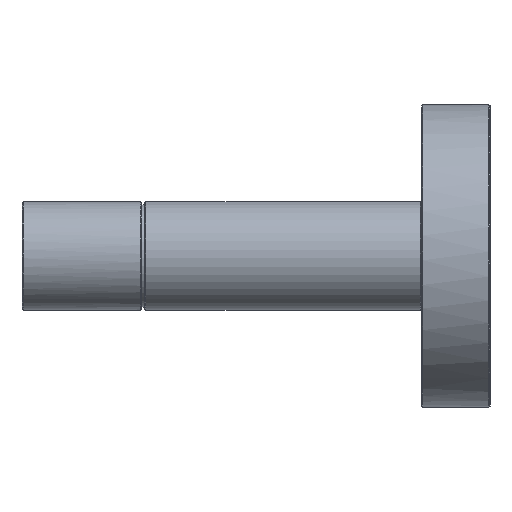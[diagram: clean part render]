
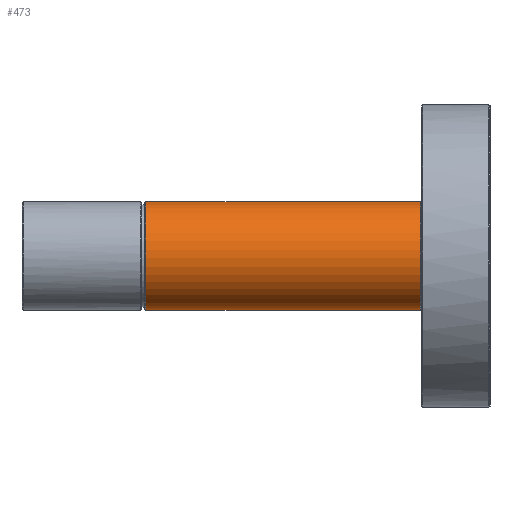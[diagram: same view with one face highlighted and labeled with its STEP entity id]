
A CAD part, left-side view. The second image highlights one B-rep face of the part: STEP entity #473.
In plain terms, the highlighted cylindrical face has radius 9.5 mm (diameter 19 mm), a partial arc.
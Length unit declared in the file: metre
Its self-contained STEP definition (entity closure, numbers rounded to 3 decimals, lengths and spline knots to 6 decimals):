
#326=VERTEX_POINT('',#327);
#327=CARTESIAN_POINT('',(-0.1735,0.0603,0.0095));
#334=VERTEX_POINT('',#335);
#335=CARTESIAN_POINT('',(-0.1735,0.0603,-0.0095));
#473=ADVANCED_FACE('',(#479),#474,.T.);
#474=CYLINDRICAL_SURFACE('',#475,0.0095);
#475=AXIS2_PLACEMENT_3D('',#476,#477,#478);
#476=CARTESIAN_POINT('',(-0.1735,0.082,0.0));
#477=DIRECTION('',(0.,1.0,0.0));
#478=DIRECTION('',(0.,-0.0,-1.0));
#479=FACE_OUTER_BOUND('',#480,.T.);
#480=EDGE_LOOP('',(#481,#492,#498,#505));
#481=ORIENTED_EDGE('',*,*,#482,.T.);
#482=EDGE_CURVE('',#483,#486,#488,.F.);
#483=VERTEX_POINT('',#484);
#484=CARTESIAN_POINT('',(-0.1735,0.0122,-0.0095));
#485=CARTESIAN_POINT('',(-0.1735,0.0122,0.0095));
#486=VERTEX_POINT('',#487);
#487=CARTESIAN_POINT('',(-0.1735,0.0122,0.0095));
#488=(B_SPLINE_CURVE(3,(#485,#489,#490,#491),.UNSPECIFIED.,.F.,.U.)B_SPLINE_CURVE_WITH_KNOTS(
  (4,4),(0.0,1.0),.UNSPECIFIED.)BOUNDED_CURVE()CURVE()GEOMETRIC_REPRESENTATION_ITEM(
  )RATIONAL_B_SPLINE_CURVE((1.0,0.333,0.333,1.0)
  )REPRESENTATION_ITEM(''));
#489=CARTESIAN_POINT('',(-0.1925,0.0122,0.0095));
#490=CARTESIAN_POINT('',(-0.1925,0.0122,-0.0095));
#491=CARTESIAN_POINT('',(-0.1735,0.0122,-0.0095));
#492=ORIENTED_EDGE('',*,*,#493,.T.);
#493=EDGE_CURVE('',#486,#326,#494,.T.);
#494=LINE('',#495,#496);
#495=CARTESIAN_POINT('',(-0.1735,0.082,0.0095));
#496=VECTOR('',#497,1.0);
#497=DIRECTION('',(0.,1.0,0.0));
#498=ORIENTED_EDGE('',*,*,#500,.T.);
#499=CARTESIAN_POINT('',(-0.1735,0.0603,0.0095));
#500=EDGE_CURVE('',#326,#334,#501,.T.);
#501=(B_SPLINE_CURVE(3,(#499,#502,#503,#504),.UNSPECIFIED.,.F.,.U.)B_SPLINE_CURVE_WITH_KNOTS(
  (4,4),(0.0,1.0),.UNSPECIFIED.)BOUNDED_CURVE()CURVE()GEOMETRIC_REPRESENTATION_ITEM(
  )RATIONAL_B_SPLINE_CURVE((1.0,0.333,0.333,1.0)
  )REPRESENTATION_ITEM(''));
#502=CARTESIAN_POINT('',(-0.1925,0.0603,0.0095));
#503=CARTESIAN_POINT('',(-0.1925,0.0603,-0.0095));
#504=CARTESIAN_POINT('',(-0.1735,0.0603,-0.0095));
#505=ORIENTED_EDGE('',*,*,#506,.F.);
#506=EDGE_CURVE('',#483,#334,#507,.T.);
#507=LINE('',#508,#509);
#508=CARTESIAN_POINT('',(-0.1735,0.012,-0.0095));
#509=VECTOR('',#510,1.0);
#510=DIRECTION('',(0.,1.0,0.0));
